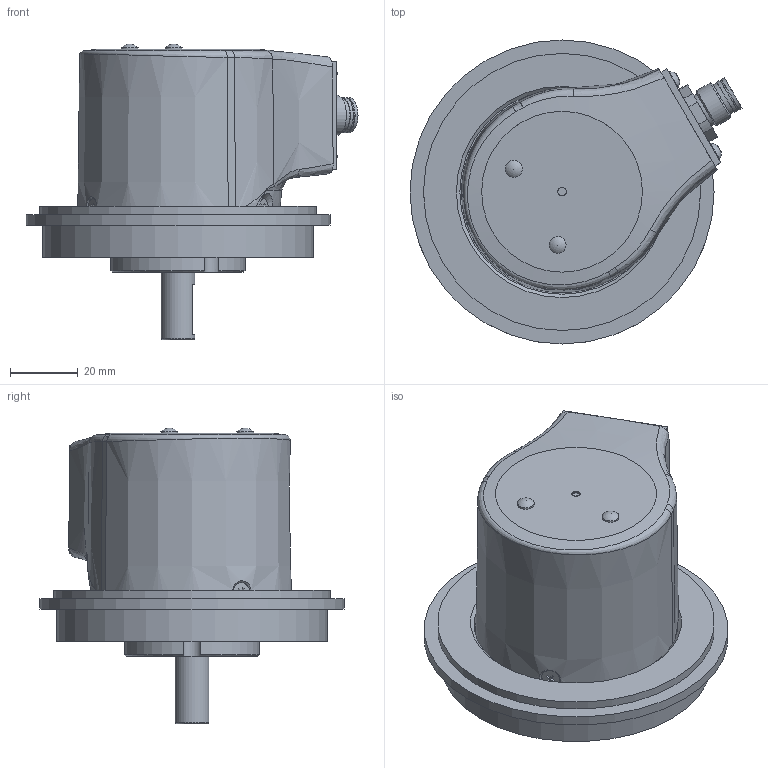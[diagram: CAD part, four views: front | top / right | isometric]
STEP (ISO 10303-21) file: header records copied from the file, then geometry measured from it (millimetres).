
FILE_DESCRIPTION(/* description */ ('Unknown'),/* implementation_level */ '2;1');
FILE_NAME(/* name */ 'EAL_EAML_90_A_M12R',/* time_stamp */ '2018-04-20T12:03:28+02:00',/* author */ ('Unknown'),/* organization */ ('Unknown'),/* preprocessor_version */ 'ST-DEVELOPER v16.7',/* originating_system */ 'DEX',/* authorisation */ $);
FILE_SCHEMA (('AUTOMOTIVE_DESIGN {1 0 10303 214 3 1 1}'));
Length unit declared in the file: millimetre
Products named in the file (1): EAL_EAML_90_A_M12R
Bounding box: 98.26 x 90 x 87.54 mm (x, y, z)
Volume: 128089 mm3; surface area: 58047 mm2
Topology: 2 solids, 18 shells, 526 faces, 1251 edges, 825 vertices
Faces by surface type: plane 254, cylinder 141, cone 81, torus 33, bspline 17
Full cylindrical faces by diameter (mm): 0.9 x16, 1.5 x8, 2.013 x7, 2.459 x10, 2.5 x1, 3 x6, 3.4 x3, 4.2 x3, 4.98 x1, 5 x6, 5.6 x3, 6 x5, 7.98 x1, 8 x7, 8.25 x1, 8.772 x1, 10 x5, 10.4 x4, 12 x1, 12.4 x1, 13 x1, 14.53 x1, 15.2 x1, 22 x3, 22.1 x2, 22.5 x1, 27 x1, 29 x2, 51.2 x1, 54 x3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
Entity records: 14672 total; most frequent: CARTESIAN_POINT 4180, DIRECTION 2142, ORIENTED_EDGE 1794, AXIS2_PLACEMENT_3D 917, EDGE_CURVE 897, FACE_BOUND 849, EDGE_LOOP 823, VERTEX_POINT 714
